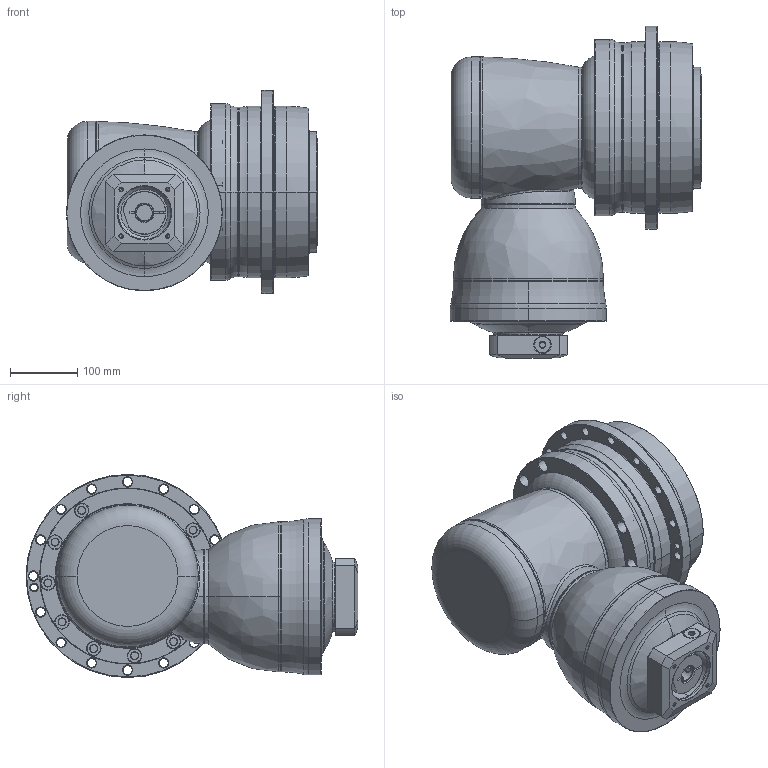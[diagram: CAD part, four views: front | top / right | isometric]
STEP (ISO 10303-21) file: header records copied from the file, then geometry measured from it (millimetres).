
FILE_DESCRIPTION((''),'2;1');
FILE_NAME('AHKB255_3ST_24-P0409500101_ASM','2016-12-01T',('d01943'),(''),'PRO/ENGINEER BY PARAMETRIC TECHNOLOGY CORPORATION, 2008410','PRO/ENGINEER BY PARAMETRIC TECHNOLOGY CORPORATION, 2008410','');
FILE_SCHEMA(('CONFIG_CONTROL_DESIGN'));
Length unit declared in the file: millimetre
Products named in the file (12): P1008600002; P1802700001; P0278700003; P0359700003; P1315600001; P1007600001; P1317600001; P0409500101; P0503500010; P0912500001; 21711418017; AHKB255_3ST_24-P0409500101_ASM
Assembly tree (11 placements, depth 2):
  AHKB255_3ST_24-P0409500101_ASM
    P1008600002
    P1802700001
    P0278700003
    P0359700003
    P1315600001
    P1007600001
    P1317600001
    P0409500101
    P0503500010
    P0912500001
    21711418017
Bounding box: 373.5 x 493.5 x 302 mm (x, y, z)
Volume: 16224947.9 mm3; surface area: 1296647.1 mm2
Topology: 12 solids, 12 shells, 1004 faces, 2291 edges, 1322 vertices
Faces by surface type: cylinder 368, cone 338, plane 135, torus 124, bspline 37, sphere 2
Entity records: 34799 total; most frequent: CARTESIAN_POINT 11666, DIRECTION 5326, ORIENTED_EDGE 4426, AXIS2_PLACEMENT_3D 2274, EDGE_CURVE 2213, VERTEX_POINT 1322, CIRCLE 1284, EDGE_LOOP 1183
